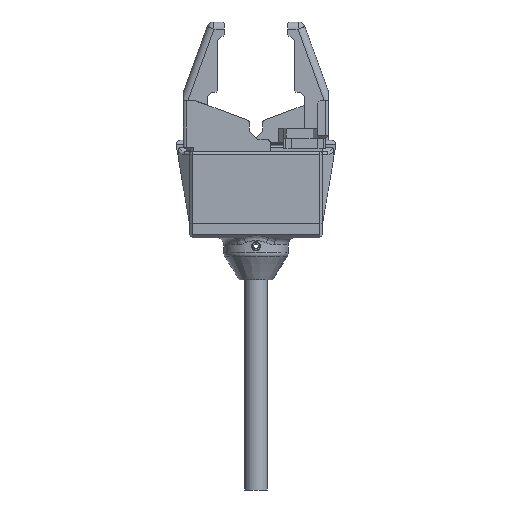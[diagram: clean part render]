
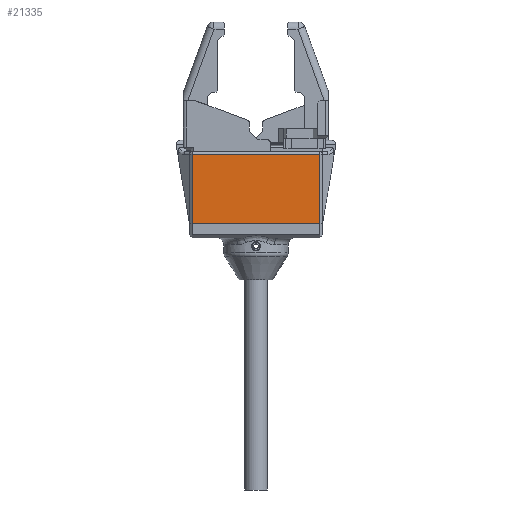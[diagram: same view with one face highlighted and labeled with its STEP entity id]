
A CAD part, front view. The second image highlights one B-rep face of the part: STEP entity #21335.
In plain terms, the highlighted planar face has unit normal (0, -1, 0) as drawn and (0, 0, 1) by its records, which use the part's own axes.
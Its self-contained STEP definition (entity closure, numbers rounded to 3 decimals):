
#1427=PLANE('',#23200);
#2317=FACE_OUTER_BOUND('',#3596,.T.);
#3596=EDGE_LOOP('',(#16585,#16586,#16587,#16588));
#5219=LINE('',#39113,#7324);
#5228=LINE('',#39185,#7333);
#5230=LINE('',#39189,#7335);
#5231=LINE('',#39190,#7336);
#7324=VECTOR('',#26236,10.);
#7333=VECTOR('',#26269,10.);
#7335=VECTOR('',#26273,10.);
#7336=VECTOR('',#26274,10.);
#9893=VERTEX_POINT('',#39108);
#9894=VERTEX_POINT('',#39112);
#9903=VERTEX_POINT('',#39184);
#9904=VERTEX_POINT('',#39188);
#12335=EDGE_CURVE('',#9894,#9893,#5219,.T.);
#12351=EDGE_CURVE('',#9893,#9903,#5228,.T.);
#12353=EDGE_CURVE('',#9904,#9894,#5230,.T.);
#12354=EDGE_CURVE('',#9904,#9903,#5231,.T.);
#16585=ORIENTED_EDGE('',*,*,#12335,.F.);
#16586=ORIENTED_EDGE('',*,*,#12353,.F.);
#16587=ORIENTED_EDGE('',*,*,#12354,.T.);
#16588=ORIENTED_EDGE('',*,*,#12351,.F.);
#21335=ADVANCED_FACE('',(#2317),#1427,.T.);
#23200=AXIS2_PLACEMENT_3D('',#39187,#26271,#26272);
#26236=DIRECTION('',(1.,0.,0.));
#26269=DIRECTION('',(0.,-1.,0.));
#26271=DIRECTION('center_axis',(0.,0.,1.));
#26272=DIRECTION('ref_axis',(1.,0.,0.));
#26273=DIRECTION('',(0.,1.,0.));
#26274=DIRECTION('',(1.,0.,0.));
#39108=CARTESIAN_POINT('',(45.5,49.5,25.));
#39112=CARTESIAN_POINT('',(-45.5,49.5,25.));
#39113=CARTESIAN_POINT('',(-23.75,49.5,25.));
#39184=CARTESIAN_POINT('',(45.5,0.,25.));
#39185=CARTESIAN_POINT('',(45.5,0.,25.));
#39187=CARTESIAN_POINT('Origin',(-47.5,0.,25.));
#39188=CARTESIAN_POINT('',(-45.5,0.,25.));
#39189=CARTESIAN_POINT('',(-45.5,0.,25.));
#39190=CARTESIAN_POINT('',(-47.5,0.,25.));
